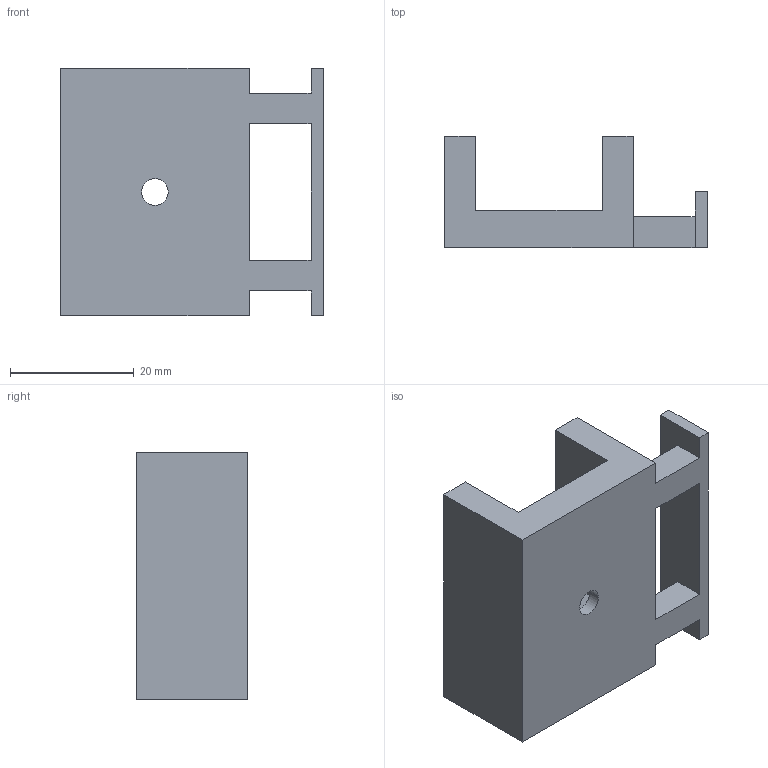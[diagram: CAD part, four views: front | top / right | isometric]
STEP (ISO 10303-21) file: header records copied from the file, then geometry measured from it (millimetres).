
FILE_DESCRIPTION((''),'2;1');
FILE_NAME('MONITORHALTERUNG','2016-11-08T',('Tim'),(''),'CREO PARAMETRIC BY PTC INC, 2015380','CREO PARAMETRIC BY PTC INC, 2015380','');
FILE_SCHEMA(('CONFIG_CONTROL_DESIGN'));
Length unit declared in the file: millimetre
Products named in the file (1): MONITORHALTERUNG
Bounding box: 42.5 x 18 x 40 mm (x, y, z)
Volume: 13133.9 mm3; surface area: 6759 mm2
Topology: 1 solids, 1 shells, 30 faces, 84 edges, 56 vertices
Faces by surface type: plane 28, cylinder 2
Entity records: 998 total; most frequent: CARTESIAN_POINT 170, ORIENTED_EDGE 168, DIRECTION 148, EDGE_CURVE 84, VECTOR 80, LINE 80, VERTEX_POINT 56, AXIS2_PLACEMENT_3D 34
